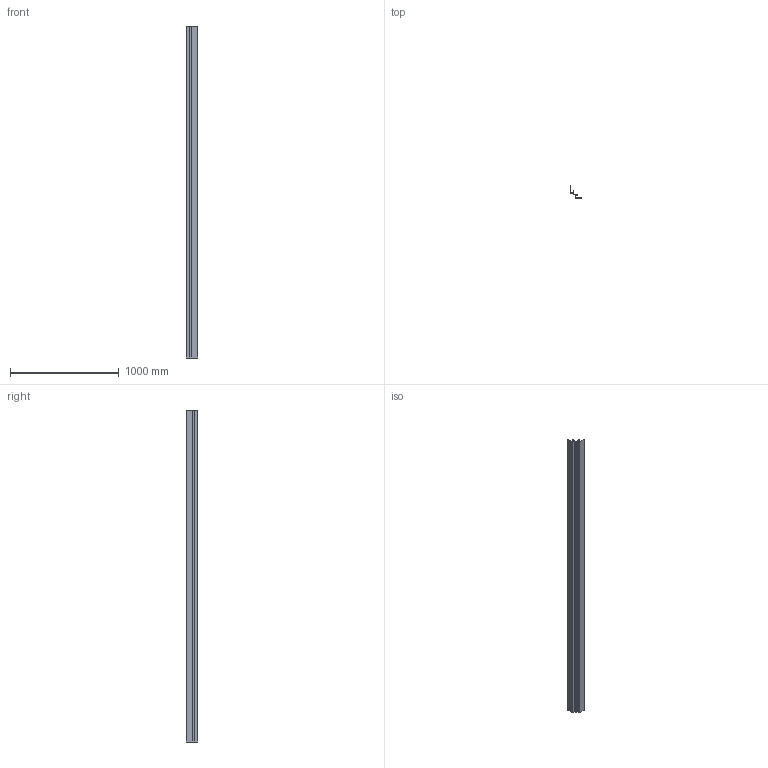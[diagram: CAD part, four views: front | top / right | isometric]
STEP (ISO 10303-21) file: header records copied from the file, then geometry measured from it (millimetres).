
FILE_DESCRIPTION (( 'STEP AP203' ), '1' );
FILE_NAME ('M22A.STEP', '2018-06-18T12:13:01', ( 'Michael Moliner' ), ( '' ), 'SwSTEP 2.0', 'SolidWorks 2018', '' );
FILE_SCHEMA (( 'CONFIG_CONTROL_DESIGN' ));
Length unit declared in the file: inch
Products named in the file (2): M22A
Bounding box: 107.33 x 107.33 x 3048 mm (x, y, z)
Volume: 465860 mm3; surface area: 1837496.8 mm2
Topology: 1 solids, 1 shells, 30 faces, 84 edges, 56 vertices
Faces by surface type: plane 20, cylinder 10
Entity records: 1125 total; most frequent: CARTESIAN_POINT 172, ORIENTED_EDGE 168, DIRECTION 168, EDGE_CURVE 84, VECTOR 64, LINE 64, VERTEX_POINT 56, AXIS2_PLACEMENT_3D 52
